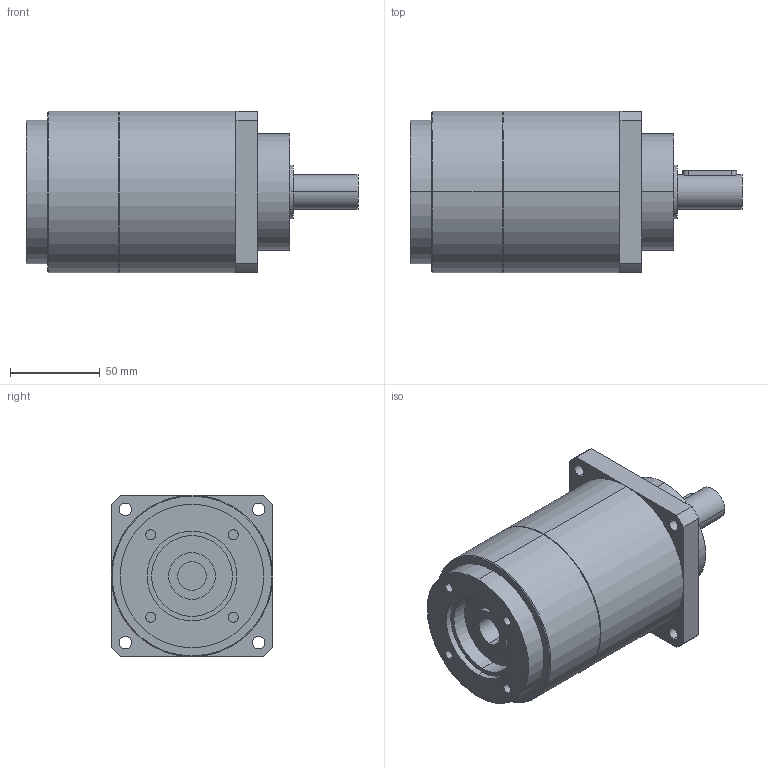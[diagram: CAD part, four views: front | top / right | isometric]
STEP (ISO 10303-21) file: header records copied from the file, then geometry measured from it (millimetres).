
FILE_DESCRIPTION(('CoCreate Modeling STEP Export'),'2;1');
FILE_NAME('GPT90_ig-9-12-16-20-25-28-35-40-50-70-100_19_B5T_16_P10.stp','2015-02-04T11:31:55',(''),(''),'CoCreate Modeling STEP processor for AP214 (Solid Model)','CoCreate Modeling 16.00C 25-Feb-2009 (C) Parametric Technology GmbH','');
FILE_SCHEMA(('AUTOMOTIVE_DESIGN { 1 0 10303 214 1 1 1 1 }'));
Length unit declared in the file: millimetre
Products named in the file (2): GPT90_ig-9-12-16-20-25-28-35-40-50-70-100_19_B5T_16_P10
Assembly tree (1 placements, depth 2):
  GPT90_ig-9-12-16-20-25-28-35-40-50-70-100_19_B5T_16_P10
    GPT90_ig-9-12-16-20-25-28-35-40-50-70-100_19_B5T_16_P10
Bounding box: 185 x 90 x 90 mm (x, y, z)
Volume: 867312 mm3; surface area: 64921.1 mm2
Topology: 1 solids, 1 shells, 75 faces, 190 edges, 131 vertices
Faces by surface type: cylinder 44, plane 27, cone 4
Entity records: 2388 total; most frequent: CARTESIAN_POINT 704, ORIENTED_EDGE 380, DIRECTION 282, EDGE_CURVE 190, VERTEX_POINT 131, AXIS2_PLACEMENT_3D 106, EDGE_LOOP 97, FACE_OUTER_BOUND 75
